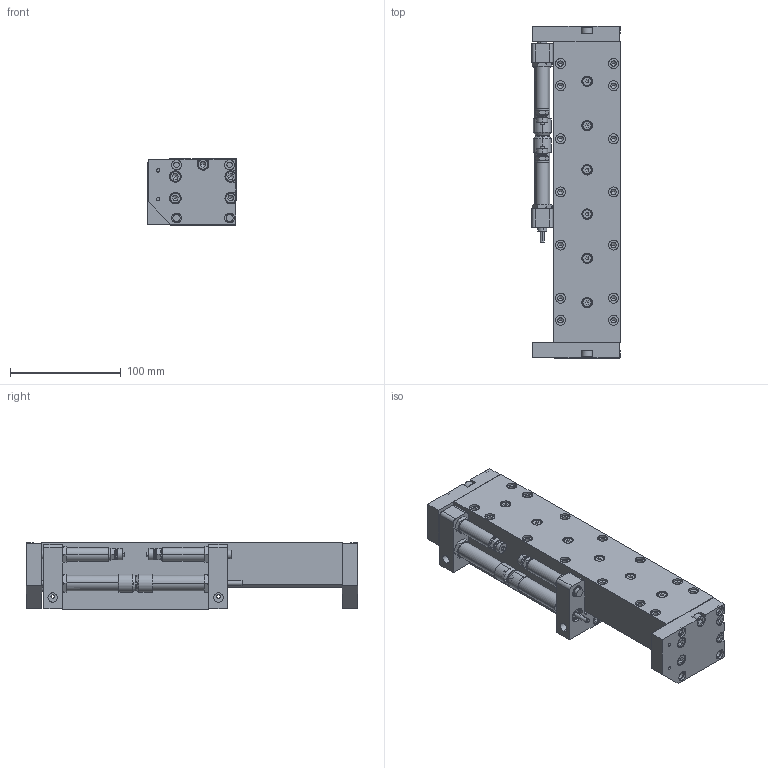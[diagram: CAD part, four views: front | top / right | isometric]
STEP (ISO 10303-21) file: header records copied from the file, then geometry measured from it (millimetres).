
FILE_DESCRIPTION((''),'2;1');
FILE_NAME('V:\CAD\Inventor-Stp\Linearelemente\LES\LES 25 neue Nummern\1000007.stp','2006-02-17T15:01:53',('vs'),(''),'Autodesk Inventor 8','Autodesk Inventor 8','');
FILE_SCHEMA(('AUTOMOTIVE_DESIGN { 1 0 10303 214 1 1 1 1 }'));
Length unit declared in the file: millimetre
Products named in the file (3): Baugruppe1; 1000007-a; 1000007-b
Assembly tree (2 placements, depth 2):
  Baugruppe1
    1000007-a
    1000007-b
Bounding box: 80 x 300 x 60 mm (x, y, z)
Volume: 734048.2 mm3; surface area: 233062.3 mm2
Topology: 23 solids, 80 shells, 2335 faces, 5886 edges, 3741 vertices
Faces by surface type: bspline 722, plane 716, cylinder 457, cone 354, torus 86
Entity records: 81897 total; most frequent: CARTESIAN_POINT 27909, ORIENTED_EDGE 11496, DIRECTION 11071, EDGE_CURVE 5748, AXIS2_PLACEMENT_3D 4317, VERTEX_POINT 3741, EDGE_LOOP 2747, CIRCLE 2683
